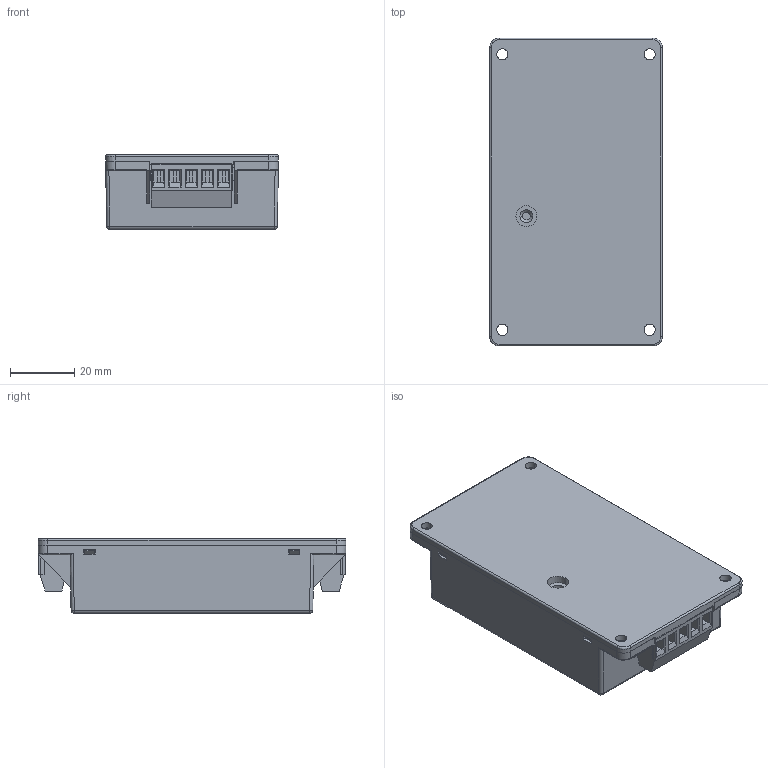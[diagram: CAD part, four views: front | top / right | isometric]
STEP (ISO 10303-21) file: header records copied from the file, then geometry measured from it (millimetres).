
FILE_DESCRIPTION (( 'STEP AP214' ), '1' );
FILE_NAME ('DTE20.STEP', '2017-01-09T15:16:48', ( '' ), ( '' ), 'SwSTEP 2.0', 'SolidWorks 2016', '' );
FILE_SCHEMA (( 'AUTOMOTIVE_DESIGN' ));
Length unit declared in the file: inch
Products named in the file (7): DTE20 CASE; DTE20 CASE_2; DTE20 BASE; Connect(5PIN); Connect(3PIN); DTE20
Assembly tree (6 placements, depth 3):
  DTE20
    Connect(3PIN)
    Connect(5PIN)
    DTE20 BASE
    DTE20 CASE
      DTE20 CASE_2
      DTE20 CASE
Bounding box: 54 x 96.15 x 23.3 mm (x, y, z)
Volume: 77328.2 mm3; surface area: 33791.8 mm2
Topology: 5 solids, 5 shells, 671 faces, 1754 edges, 1156 vertices
Faces by surface type: plane 458, cylinder 171, bspline 36, cone 6
Entity records: 30075 total; most frequent: CARTESIAN_POINT 4429, ORIENTED_EDGE 3508, DIRECTION 3284, EDGE_CURVE 1754, LINE 1338, VECTOR 1338, VERTEX_POINT 1156, AXIS2_PLACEMENT_3D 973
